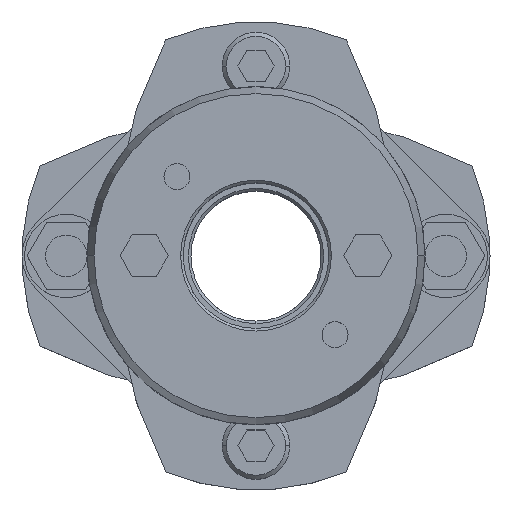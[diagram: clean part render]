
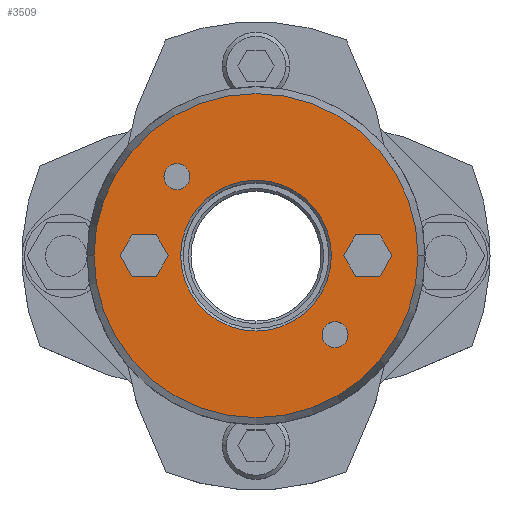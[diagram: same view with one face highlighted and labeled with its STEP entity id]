
A CAD part, top view. The second image highlights one B-rep face of the part: STEP entity #3509.
In plain terms, the highlighted planar face has unit normal (0, 0, 1).
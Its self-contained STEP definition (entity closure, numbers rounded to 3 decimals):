
#1471=CARTESIAN_POINT('',(-14.5,0.,39.25));
#1472=VERTEX_POINT('',#1471);
#1488=CARTESIAN_POINT('',(14.5,0.,39.25));
#1489=VERTEX_POINT('',#1488);
#1496=CARTESIAN_POINT('',(0.,0.,39.25));
#1497=DIRECTION('',(0.0,0.0,1.0));
#1498=DIRECTION('',(-1.0,0.0,0.0));
#1499=AXIS2_PLACEMENT_3D('',#1496,#1497,#1498);
#1500=CIRCLE('',#1499,14.5);
#1501=EDGE_CURVE('',#1489,#1472,#1500,.T.);
#1617=CARTESIAN_POINT('',(31.16,0.,39.25));
#1618=VERTEX_POINT('',#1617);
#1627=CARTESIAN_POINT('',(-31.16,0.,39.25));
#1628=VERTEX_POINT('',#1627);
#1629=CARTESIAN_POINT('',(0.,0.,39.25));
#1630=DIRECTION('',(0.0,0.0,-1.0));
#1631=DIRECTION('',(1.0,0.0,0.0));
#1632=AXIS2_PLACEMENT_3D('',#1629,#1630,#1631);
#1633=CIRCLE('',#1632,31.16);
#1634=EDGE_CURVE('',#1618,#1628,#1633,.T.);
#1951=CARTESIAN_POINT('',(-17.703,15.203,39.25));
#1952=VERTEX_POINT('',#1951);
#1968=CARTESIAN_POINT('',(-12.703,15.203,39.25));
#1969=VERTEX_POINT('',#1968);
#1976=CARTESIAN_POINT('',(-15.203,15.203,39.25));
#1977=DIRECTION('',(0.0,0.0,-1.0));
#1978=DIRECTION('',(-1.0,0.0,0.0));
#1979=AXIS2_PLACEMENT_3D('',#1976,#1977,#1978);
#1980=CIRCLE('',#1979,2.5);
#1981=EDGE_CURVE('',#1952,#1969,#1980,.T.);
#1993=CARTESIAN_POINT('',(12.703,-15.203,39.25));
#1994=VERTEX_POINT('',#1993);
#2010=CARTESIAN_POINT('',(17.703,-15.203,39.25));
#2011=VERTEX_POINT('',#2010);
#2018=CARTESIAN_POINT('',(15.203,-15.203,39.25));
#2019=DIRECTION('',(0.0,0.0,-1.0));
#2020=DIRECTION('',(-1.0,0.0,0.0));
#2021=AXIS2_PLACEMENT_3D('',#2018,#2019,#2020);
#2022=CIRCLE('',#2021,2.5);
#2023=EDGE_CURVE('',#1994,#2011,#2022,.T.);
#2115=CARTESIAN_POINT('',(16.881,0.,39.25));
#2116=VERTEX_POINT('',#2115);
#2123=CARTESIAN_POINT('',(19.191,-4.,39.25));
#2124=VERTEX_POINT('',#2123);
#2125=CARTESIAN_POINT('',(19.191,-4.,39.25));
#2126=DIRECTION('',(-0.5,0.866,0.0));
#2127=VECTOR('',#2126,4.619);
#2128=LINE('',#2125,#2127);
#2129=EDGE_CURVE('',#2124,#2116,#2128,.T.);
#2153=CARTESIAN_POINT('',(19.191,4.,39.25));
#2154=VERTEX_POINT('',#2153);
#2161=CARTESIAN_POINT('',(16.881,0.,39.25));
#2162=DIRECTION('',(0.5,0.866,0.0));
#2163=VECTOR('',#2162,4.619);
#2164=LINE('',#2161,#2163);
#2165=EDGE_CURVE('',#2116,#2154,#2164,.T.);
#2184=CARTESIAN_POINT('',(23.809,4.,39.25));
#2185=VERTEX_POINT('',#2184);
#2192=CARTESIAN_POINT('',(19.191,4.,39.25));
#2193=DIRECTION('',(1.0,0.0,0.0));
#2194=VECTOR('',#2193,4.619);
#2195=LINE('',#2192,#2194);
#2196=EDGE_CURVE('',#2154,#2185,#2195,.T.);
#2215=CARTESIAN_POINT('',(26.119,0.,39.25));
#2216=VERTEX_POINT('',#2215);
#2223=CARTESIAN_POINT('',(23.809,4.,39.25));
#2224=DIRECTION('',(0.5,-0.866,0.0));
#2225=VECTOR('',#2224,4.619);
#2226=LINE('',#2223,#2225);
#2227=EDGE_CURVE('',#2185,#2216,#2226,.T.);
#2246=CARTESIAN_POINT('',(23.809,-4.,39.25));
#2247=VERTEX_POINT('',#2246);
#2254=CARTESIAN_POINT('',(26.119,0.,39.25));
#2255=DIRECTION('',(-0.5,-0.866,0.0));
#2256=VECTOR('',#2255,4.619);
#2257=LINE('',#2254,#2256);
#2258=EDGE_CURVE('',#2216,#2247,#2257,.T.);
#2276=CARTESIAN_POINT('',(23.809,-4.,39.25));
#2277=DIRECTION('',(-1.0,0.0,0.0));
#2278=VECTOR('',#2277,4.619);
#2279=LINE('',#2276,#2278);
#2280=EDGE_CURVE('',#2247,#2124,#2279,.T.);
#2315=CARTESIAN_POINT('',(-26.119,0.,39.25));
#2316=VERTEX_POINT('',#2315);
#2323=CARTESIAN_POINT('',(-23.809,-4.,39.25));
#2324=VERTEX_POINT('',#2323);
#2325=CARTESIAN_POINT('',(-23.809,-4.,39.25));
#2326=DIRECTION('',(-0.5,0.866,0.0));
#2327=VECTOR('',#2326,4.619);
#2328=LINE('',#2325,#2327);
#2329=EDGE_CURVE('',#2324,#2316,#2328,.T.);
#2353=CARTESIAN_POINT('',(-23.809,4.,39.25));
#2354=VERTEX_POINT('',#2353);
#2361=CARTESIAN_POINT('',(-26.119,0.,39.25));
#2362=DIRECTION('',(0.5,0.866,0.0));
#2363=VECTOR('',#2362,4.619);
#2364=LINE('',#2361,#2363);
#2365=EDGE_CURVE('',#2316,#2354,#2364,.T.);
#2384=CARTESIAN_POINT('',(-19.191,4.,39.25));
#2385=VERTEX_POINT('',#2384);
#2392=CARTESIAN_POINT('',(-23.809,4.,39.25));
#2393=DIRECTION('',(1.0,0.0,0.0));
#2394=VECTOR('',#2393,4.619);
#2395=LINE('',#2392,#2394);
#2396=EDGE_CURVE('',#2354,#2385,#2395,.T.);
#2415=CARTESIAN_POINT('',(-16.881,0.,39.25));
#2416=VERTEX_POINT('',#2415);
#2423=CARTESIAN_POINT('',(-19.191,4.,39.25));
#2424=DIRECTION('',(0.5,-0.866,0.0));
#2425=VECTOR('',#2424,4.619);
#2426=LINE('',#2423,#2425);
#2427=EDGE_CURVE('',#2385,#2416,#2426,.T.);
#2446=CARTESIAN_POINT('',(-19.191,-4.,39.25));
#2447=VERTEX_POINT('',#2446);
#2454=CARTESIAN_POINT('',(-16.881,0.,39.25));
#2455=DIRECTION('',(-0.5,-0.866,0.0));
#2456=VECTOR('',#2455,4.619);
#2457=LINE('',#2454,#2456);
#2458=EDGE_CURVE('',#2416,#2447,#2457,.T.);
#2476=CARTESIAN_POINT('',(-19.191,-4.,39.25));
#2477=DIRECTION('',(-1.0,0.0,0.0));
#2478=VECTOR('',#2477,4.619);
#2479=LINE('',#2476,#2478);
#2480=EDGE_CURVE('',#2447,#2324,#2479,.T.);
#2506=CARTESIAN_POINT('',(15.203,-15.203,39.25));
#2507=DIRECTION('',(0.0,0.0,-1.0));
#2508=DIRECTION('',(-1.0,0.0,0.0));
#2509=AXIS2_PLACEMENT_3D('',#2506,#2507,#2508);
#2510=CIRCLE('',#2509,2.5);
#2511=EDGE_CURVE('',#2011,#1994,#2510,.T.);
#2540=CARTESIAN_POINT('',(-15.203,15.203,39.25));
#2541=DIRECTION('',(0.0,0.0,-1.0));
#2542=DIRECTION('',(-1.0,0.0,0.0));
#2543=AXIS2_PLACEMENT_3D('',#2540,#2541,#2542);
#2544=CIRCLE('',#2543,2.5);
#2545=EDGE_CURVE('',#1969,#1952,#2544,.T.);
#3456=CARTESIAN_POINT('',(0.,0.,39.25));
#3457=DIRECTION('',(0.0,0.0,-1.0));
#3458=DIRECTION('',(1.0,0.0,0.0));
#3459=AXIS2_PLACEMENT_3D('',#3456,#3457,#3458);
#3460=CIRCLE('',#3459,31.16);
#3461=EDGE_CURVE('',#1628,#1618,#3460,.T.);
#3466=CARTESIAN_POINT('',(-2.682,0.,39.25));
#3467=DIRECTION('',(0.0,0.0,1.0));
#3468=DIRECTION('',(-1.0,0.0,0.0));
#3469=AXIS2_PLACEMENT_3D('',#3466,#3467,#3468);
#3470=PLANE('',#3469);
#3471=ORIENTED_EDGE('',*,*,#3461,.F.);
#3472=ORIENTED_EDGE('',*,*,#1634,.F.);
#3473=EDGE_LOOP('',(#3471,#3472));
#3474=FACE_OUTER_BOUND('',#3473,.T.);
#3475=ORIENTED_EDGE('',*,*,#2129,.T.);
#3476=ORIENTED_EDGE('',*,*,#2165,.T.);
#3477=ORIENTED_EDGE('',*,*,#2196,.T.);
#3478=ORIENTED_EDGE('',*,*,#2227,.T.);
#3479=ORIENTED_EDGE('',*,*,#2258,.T.);
#3480=ORIENTED_EDGE('',*,*,#2280,.T.);
#3481=EDGE_LOOP('',(#3475,#3476,#3477,#3478,#3479,#3480));
#3482=FACE_BOUND('',#3481,.T.);
#3483=ORIENTED_EDGE('',*,*,#2329,.T.);
#3484=ORIENTED_EDGE('',*,*,#2365,.T.);
#3485=ORIENTED_EDGE('',*,*,#2396,.T.);
#3486=ORIENTED_EDGE('',*,*,#2427,.T.);
#3487=ORIENTED_EDGE('',*,*,#2458,.T.);
#3488=ORIENTED_EDGE('',*,*,#2480,.T.);
#3489=EDGE_LOOP('',(#3483,#3484,#3485,#3486,#3487,#3488));
#3490=FACE_BOUND('',#3489,.T.);
#3491=ORIENTED_EDGE('',*,*,#2023,.T.);
#3492=ORIENTED_EDGE('',*,*,#2511,.T.);
#3493=EDGE_LOOP('',(#3491,#3492));
#3494=FACE_BOUND('',#3493,.T.);
#3495=ORIENTED_EDGE('',*,*,#1981,.T.);
#3496=ORIENTED_EDGE('',*,*,#2545,.T.);
#3497=EDGE_LOOP('',(#3495,#3496));
#3498=FACE_BOUND('',#3497,.T.);
#3499=ORIENTED_EDGE('',*,*,#1501,.F.);
#3500=CARTESIAN_POINT('',(0.,0.,39.25));
#3501=DIRECTION('',(0.0,0.0,1.0));
#3502=DIRECTION('',(-1.0,0.0,0.0));
#3503=AXIS2_PLACEMENT_3D('',#3500,#3501,#3502);
#3504=CIRCLE('',#3503,14.5);
#3505=EDGE_CURVE('',#1472,#1489,#3504,.T.);
#3506=ORIENTED_EDGE('',*,*,#3505,.F.);
#3507=EDGE_LOOP('',(#3499,#3506));
#3508=FACE_BOUND('',#3507,.T.);
#3509=ADVANCED_FACE('',(#3474,#3482,#3490,#3494,#3498,#3508),#3470,.T.);
